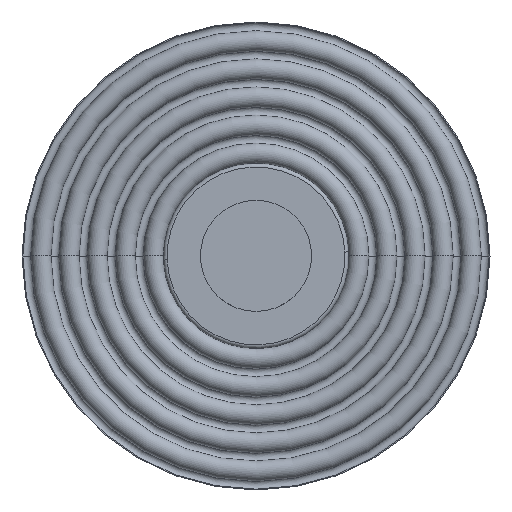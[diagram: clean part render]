
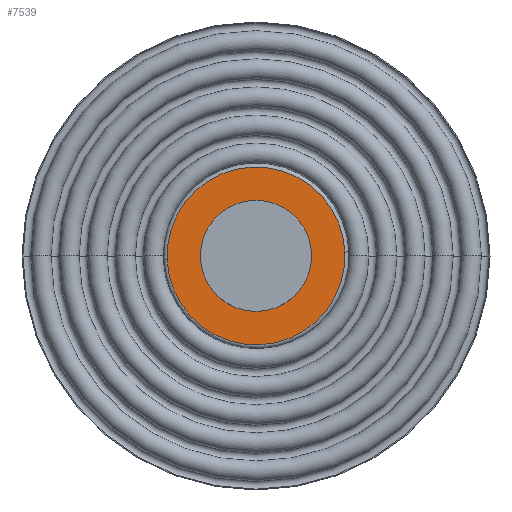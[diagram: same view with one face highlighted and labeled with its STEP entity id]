
A CAD part, top view. The second image highlights one B-rep face of the part: STEP entity #7539.
In plain terms, the highlighted planar face has unit normal (0, 0, 1).
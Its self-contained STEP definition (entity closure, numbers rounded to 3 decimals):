
#43 = ORIENTED_EDGE ( 'NONE', *, *, #3006, .T. ) ;
#97 = DIRECTION ( 'NONE',  ( 1., 0., 0. ) ) ;
#416 = CARTESIAN_POINT ( 'NONE',  ( 0., 0., 15. ) ) ;
#1098 = FACE_OUTER_BOUND ( 'NONE', #10929, .T. ) ;
#1107 = VERTEX_POINT ( 'NONE', #3136 ) ;
#1173 = CARTESIAN_POINT ( 'NONE',  ( 0., 0., 15. ) ) ;
#1307 = AXIS2_PLACEMENT_3D ( 'NONE', #1173, #13165, #97 ) ;
#2873 = DIRECTION ( 'NONE',  ( 1., 0., 0. ) ) ;
#3006 = EDGE_CURVE ( 'NONE', #7500, #3218, #3820, .T. ) ;
#3007 = VERTEX_POINT ( 'NONE', #11980 ) ;
#3136 = CARTESIAN_POINT ( 'NONE',  ( -5., 0., 15. ) ) ;
#3218 = VERTEX_POINT ( 'NONE', #11178 ) ;
#3434 = ORIENTED_EDGE ( 'NONE', *, *, #13662, .F. ) ;
#3489 = DIRECTION ( 'NONE',  ( 0., 0., 1. ) ) ;
#3534 = CARTESIAN_POINT ( 'NONE',  ( 0., 0., 15. ) ) ;
#3820 = CIRCLE ( 'NONE', #1307, 96. ) ;
#3948 = CIRCLE ( 'NONE', #11189, 96. ) ;
#4246 = AXIS2_PLACEMENT_3D ( 'NONE', #416, #8027, #9068 ) ;
#4460 = CIRCLE ( 'NONE', #4246, 5. ) ;
#4703 = ORIENTED_EDGE ( 'NONE', *, *, #10377, .T. ) ;
#6158 = EDGE_LOOP ( 'NONE', ( #12622, #3434 ) ) ;
#7112 = CARTESIAN_POINT ( 'NONE',  ( 0., 0., 15. ) ) ;
#7196 = DIRECTION ( 'NONE',  ( 1., 0., 0. ) ) ;
#7500 = VERTEX_POINT ( 'NONE', #13432 ) ;
#7539 = ADVANCED_FACE ( 'NONE', ( #1098, #10801 ), #13620, .T. ) ;
#8027 = DIRECTION ( 'NONE',  ( 0., 0., 1. ) ) ;
#8708 = AXIS2_PLACEMENT_3D ( 'NONE', #7112, #13578, #7196 ) ;
#9068 = DIRECTION ( 'NONE',  ( 1., 0., 0. ) ) ;
#9936 = DIRECTION ( 'NONE',  ( 1., 0., 0. ) ) ;
#10377 = EDGE_CURVE ( 'NONE', #3218, #7500, #3948, .T. ) ;
#10801 = FACE_BOUND ( 'NONE', #6158, .T. ) ;
#10929 = EDGE_LOOP ( 'NONE', ( #43, #4703 ) ) ;
#11178 = CARTESIAN_POINT ( 'NONE',  ( -96., 0., 15. ) ) ;
#11189 = AXIS2_PLACEMENT_3D ( 'NONE', #11446, #11493, #2873 ) ;
#11446 = CARTESIAN_POINT ( 'NONE',  ( 0., 0., 15. ) ) ;
#11493 = DIRECTION ( 'NONE',  ( 0., 0., 1. ) ) ;
#11980 = CARTESIAN_POINT ( 'NONE',  ( 5., 0., 15. ) ) ;
#12291 = CIRCLE ( 'NONE', #13474, 5. ) ;
#12622 = ORIENTED_EDGE ( 'NONE', *, *, #14020, .F. ) ;
#13165 = DIRECTION ( 'NONE',  ( 0., 0., 1. ) ) ;
#13432 = CARTESIAN_POINT ( 'NONE',  ( 96., 0., 15. ) ) ;
#13474 = AXIS2_PLACEMENT_3D ( 'NONE', #3534, #3489, #9936 ) ;
#13578 = DIRECTION ( 'NONE',  ( 0., 0., 1. ) ) ;
#13620 = PLANE ( 'NONE',  #8708 ) ;
#13662 = EDGE_CURVE ( 'NONE', #1107, #3007, #4460, .T. ) ;
#14020 = EDGE_CURVE ( 'NONE', #3007, #1107, #12291, .T. ) ;
